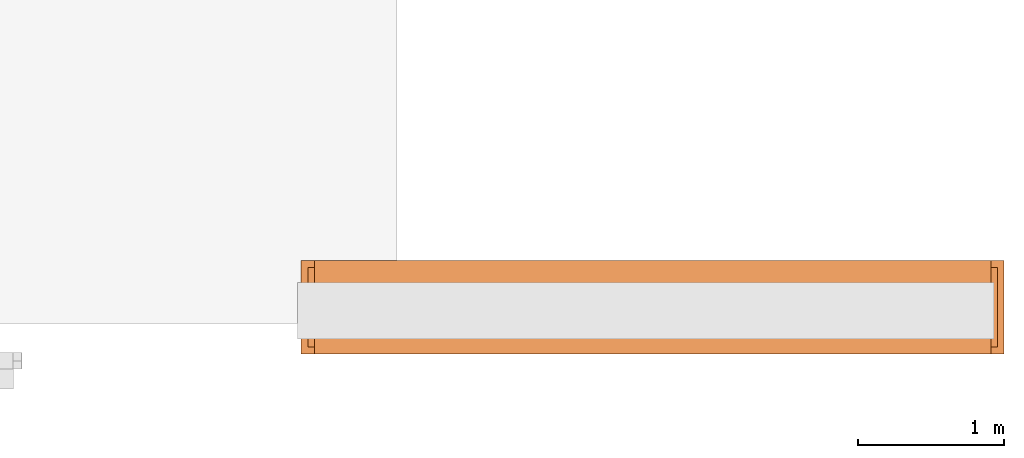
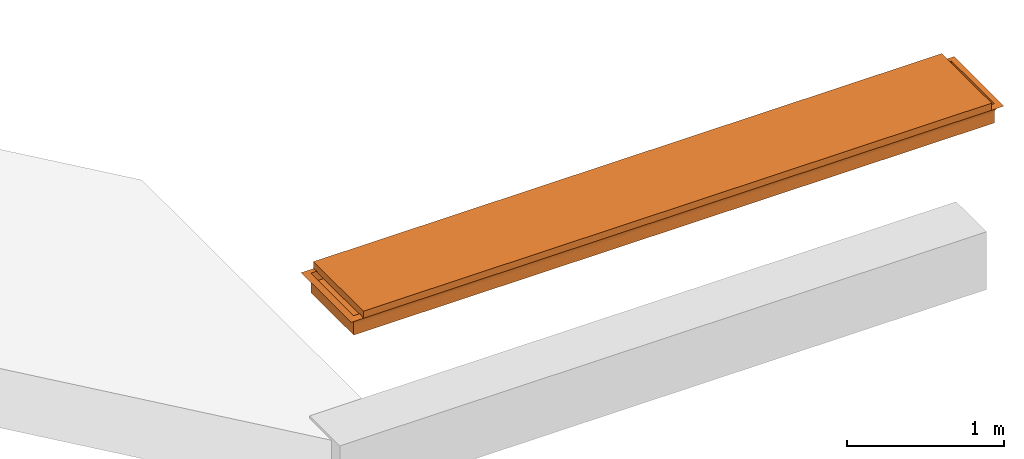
# One storey, part 4 of 4: 1 proxy.
"""IFC2X3 building model written with IfcOpenShell, lengths in metres."""

from ifc_helpers import new_model, entity, si_unit, converted_unit, derived_unit, direction, frame, origin, place, context, subcontext, project, spatial, faceted_brep, source, transform, mapped, material, type_object, type_shapes, element, save


model = new_model("IFC2X3")

# Units and contexts
model_context = context("Model", 3, precision=1e-05, world=origin(), true_north=direction((6.12303176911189e-17, 1.0)))
body_context = subcontext(model_context, "Body", "Model", "MODEL_VIEW")
ifc_project = project(units=[si_unit("LENGTHUNIT", "METRE"), si_unit("AREAUNIT", "SQUARE_METRE"), si_unit("VOLUMEUNIT", "CUBIC_METRE"), converted_unit("PLANEANGLEUNIT", "DEGREE", entity("IfcRatioMeasure", 0.0174532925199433), si_unit("PLANEANGLEUNIT", "RADIAN"), dimensions=[0, 0, 0, 0, 0, 0, 0]), si_unit("MASSUNIT", "GRAM", prefix="KILO"), derived_unit("MASSDENSITYUNIT", [(si_unit("MASSUNIT", "GRAM", prefix="KILO"), 1), (si_unit("LENGTHUNIT", "METRE"), -3)]), si_unit("TIMEUNIT", "SECOND"), si_unit("FREQUENCYUNIT", "HERTZ"), si_unit("THERMODYNAMICTEMPERATUREUNIT", "DEGREE_CELSIUS"), derived_unit("THERMALTRANSMITTANCEUNIT", [(si_unit("MASSUNIT", "GRAM", prefix="KILO"), 1), (si_unit("THERMODYNAMICTEMPERATUREUNIT", "KELVIN"), -1), (si_unit("TIMEUNIT", "SECOND"), -3)]), derived_unit("VOLUMETRICFLOWRATEUNIT", [(si_unit("LENGTHUNIT", "METRE"), 3), (si_unit("TIMEUNIT", "SECOND"), -1)]), si_unit("ELECTRICCURRENTUNIT", "AMPERE"), si_unit("ELECTRICVOLTAGEUNIT", "VOLT"), si_unit("POWERUNIT", "WATT"), si_unit("FORCEUNIT", "NEWTON", prefix="KILO"), si_unit("ILLUMINANCEUNIT", "LUX"), si_unit("LUMINOUSFLUXUNIT", "LUMEN"), si_unit("LUMINOUSINTENSITYUNIT", "CANDELA"), derived_unit("USERDEFINED", [(si_unit("MASSUNIT", "GRAM", prefix="KILO"), -1), (si_unit("LENGTHUNIT", "METRE"), -2), (si_unit("TIMEUNIT", "SECOND"), 3), (si_unit("LUMINOUSFLUXUNIT", "LUMEN"), 1)]), derived_unit("LINEARVELOCITYUNIT", [(si_unit("LENGTHUNIT", "METRE"), 1), (si_unit("TIMEUNIT", "SECOND"), -1)]), si_unit("PRESSUREUNIT", "PASCAL"), derived_unit("USERDEFINED", [(si_unit("LENGTHUNIT", "METRE"), -2), (si_unit("MASSUNIT", "GRAM", prefix="KILO"), 1), (si_unit("TIMEUNIT", "SECOND"), -2)])], contexts=[model_context])

# Site, building, storey
site_placement = place(None, origin())
site = spatial("IfcSite", under=ifc_project, at=site_placement, Name="Default", CompositionType="ELEMENT")
building_placement = place(site_placement, origin())
building = spatial("IfcBuilding", under=site, at=building_placement, CompositionType="ELEMENT")
storey_placement = place(building_placement, frame((0.0, 0.0, 23.3294157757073)))
storey = spatial("IfcBuildingStorey", under=building, at=storey_placement, Name="Livello 3", CompositionType="ELEMENT", Elevation=23.3294157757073)

# Proxy
ifc_material = material(Name="Piperno")
building_element_proxy_type = type_object("IfcBuildingElementProxyType", Name="Cimasa_balaustra terrazzo_2", PredefinedType="NOTDEFINED", material=ifc_material)
shared_shape = source(origin(), body_context, "Body", "Brep", [
    faceted_brep([(4.81252100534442, 0.638873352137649, 0.143041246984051), (4.80097214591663, 0.314926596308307, 0.137592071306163), (4.79713279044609, 0.623485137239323, 0.135148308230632), (4.79713279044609, 0.0169834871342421, 0.135148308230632), (4.81252100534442, 0.00159527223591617, 0.143041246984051), (4.76874770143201, 0.595100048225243, 0.0930289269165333), (4.77453273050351, 0.600885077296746, 0.109327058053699), (4.77453273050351, 0.0395835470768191, 0.109327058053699), (4.76874770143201, 0.0453685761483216, 0.0930289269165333), (4.76720796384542, 0.593560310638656, 0.0758032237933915), (4.76720796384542, 0.0469083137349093, 0.0758032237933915), (4.78419782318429, 0.610550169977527, 0.123668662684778), (4.79057391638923, 0.320234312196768, 0.130055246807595), (4.78419782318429, 0.0299184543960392, 0.123668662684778), (4.81252100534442, 0.349188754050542, 0.143041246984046), (4.76720796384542, 0.0469083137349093, 0.151031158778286), (4.76720796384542, 0.593560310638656, 0.151031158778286), (1.06690506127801, 0.605794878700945, 0.117576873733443), (1.45755995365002, 0.611336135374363, 0.124551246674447), (1.40023166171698, 0.602380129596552, 0.112129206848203), (4.36561989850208, 0.605476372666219, 0.117113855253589), (4.43282723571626, 0.627112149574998, 0.137466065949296), (4.18540992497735, 0.597585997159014, 0.101660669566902), (4.0593198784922, 0.608747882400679, 0.121522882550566), (1.89405170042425, 0.614249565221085, 0.127575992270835), (2.38717977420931, 0.618720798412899, 0.131577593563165), (2.32339941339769, 0.604942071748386, 0.116318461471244), (4.2331503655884, 0.638873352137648, 0.143041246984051), (0.580965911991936, 0.638873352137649, 0.143041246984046), (0.381289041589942, 0.627112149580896, 0.137466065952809), (0.00159527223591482, 0.638873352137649, 0.143041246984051), (0.0299184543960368, 0.610550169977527, 0.123668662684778), (0.608999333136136, 0.617190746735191, 0.130286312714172), (0.448496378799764, 0.605476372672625, 0.117113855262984), (0.0395835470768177, 0.600885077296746, 0.109327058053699), (2.84623422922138, 0.596809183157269, 0.0993794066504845), (3.0291004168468, 0.593560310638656, 0.0758032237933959), (2.51234131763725, 0.594754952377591, 0.0913494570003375), (0.0453685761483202, 0.595100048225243, 0.0930289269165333), (0.628706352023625, 0.597585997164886, 0.101660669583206), (0.717747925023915, 0.627635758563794, 0.137774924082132), (1.16033655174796, 0.638873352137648, 0.143041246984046), (3.3797202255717, 0.619450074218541, 0.132166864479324), (2.79991848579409, 0.624807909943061, 0.136030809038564), (3.03040957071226, 0.638873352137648, 0.143041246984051), (0.418683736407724, 0.59433781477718, 0.0889560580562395), (0.626277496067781, 0.593560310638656, 0.0758032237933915), (0.0469083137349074, 0.593560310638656, 0.0758032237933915), (0.760615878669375, 0.602837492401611, 0.112928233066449), (4.03650068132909, 0.594329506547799, 0.0889027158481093), (4.39543254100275, 0.594337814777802, 0.0889560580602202), (4.18783878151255, 0.593560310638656, 0.0758032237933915), (4.20511694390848, 0.617190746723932, 0.130286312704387), (3.81911834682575, 0.615916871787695, 0.129151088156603), (3.94346721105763, 0.627874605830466, 0.137913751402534), (1.01935309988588, 0.598347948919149, 0.103676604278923), (3.74721121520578, 0.605794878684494, 0.117576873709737), (3.6402198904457, 0.596342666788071, 0.0978669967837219), (1.12682709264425, 0.620319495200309, 0.132848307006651), (0.0169834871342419, 0.623485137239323, 0.135148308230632), (0.915962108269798, 0.59432631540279, 0.0888821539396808), (1.24438982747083, 0.595192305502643, 0.0934449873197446), (1.55284006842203, 0.596917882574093, 0.09971497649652), (1.20564667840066, 0.593560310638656, 0.0758032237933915), (3.65377972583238, 0.638873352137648, 0.143041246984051), (1.67217838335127, 0.594136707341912, 0.0875767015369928), (1.51666579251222, 0.593560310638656, 0.0758032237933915), (2.81622401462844, 0.602591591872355, 0.112501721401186), (2.51833671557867, 0.599053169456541, 0.105389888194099), (2.13871006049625, 0.595823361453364, 0.0960175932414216), (1.55658895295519, 0.6248223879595, 0.136040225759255), (1.76533187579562, 0.603530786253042, 0.114094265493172), (3.34208840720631, 0.638873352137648, 0.143041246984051), (2.40705189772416, 0.638873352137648, 0.143041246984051), (3.25989419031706, 0.601849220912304, 0.111169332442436), (2.82865096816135, 0.610995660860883, 0.1241726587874), (3.41492397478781, 0.609164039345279, 0.122034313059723), (2.13871212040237, 0.593560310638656, 0.0758032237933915), (1.82768895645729, 0.593560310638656, 0.0758032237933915), (3.60846959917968, 0.593560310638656, 0.0758032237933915), (3.24003730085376, 0.595850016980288, 0.0961175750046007), (2.44973123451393, 0.593560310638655, 0.0758032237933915), (1.93361179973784, 0.62622945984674, 0.136931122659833), (1.78369422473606, 0.638873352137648, 0.143041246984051), (1.47201538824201, 0.638873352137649, 0.143041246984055), (2.09537306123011, 0.638873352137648, 0.143041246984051), (2.71873073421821, 0.638873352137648, 0.143041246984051), (0.0469083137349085, 0.593560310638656, 0.151031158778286), (0.00159527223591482, 0.00159527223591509, 0.143041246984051), (0.0131441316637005, 0.325542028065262, 0.137592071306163), (0.0169834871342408, 0.0169834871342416, 0.135148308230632), (0.0453685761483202, 0.045368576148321, 0.0930289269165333), (0.0395835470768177, 0.0395835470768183, 0.109327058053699), (0.0469083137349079, 0.0469083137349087, 0.0758032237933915), (0.0299184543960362, 0.029918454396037, 0.123668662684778), (0.0235423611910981, 0.320234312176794, 0.130055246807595), (0.00159527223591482, 0.291279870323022, 0.143041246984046), (0.0469083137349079, 0.0469083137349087, 0.151031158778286), (3.7472112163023, 0.0346737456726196, 0.117576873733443), (3.35655632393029, 0.0291324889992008, 0.124551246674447), (3.41388461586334, 0.0380884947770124, 0.112129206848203), (0.448496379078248, 0.0349922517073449, 0.117113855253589), (0.381289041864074, 0.0133564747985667, 0.137466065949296), (0.628706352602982, 0.04288262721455, 0.101660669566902), (0.754796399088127, 0.0317207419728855, 0.121522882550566), (2.92006457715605, 0.02621905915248, 0.127575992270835), (2.42693650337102, 0.0217478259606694, 0.131577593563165), (2.4907168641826, 0.03552655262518, 0.116318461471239), (0.58096140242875, 0.00159527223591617, 0.143041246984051), (4.23315487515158, 0.00159527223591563, 0.143041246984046), (4.43282723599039, 0.0133564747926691, 0.137466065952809), (4.20511694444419, 0.0232778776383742, 0.130286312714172), (4.36561989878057, 0.0349922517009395, 0.117113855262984), (1.96788204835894, 0.0436594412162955, 0.0993794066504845), (1.78501586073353, 0.0469083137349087, 0.0758032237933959), (2.30177495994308, 0.0457136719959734, 0.0913494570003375), (4.1854099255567, 0.0428826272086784, 0.101660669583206), (4.09636835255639, 0.0128328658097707, 0.137774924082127), (3.65378874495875, 0.0015952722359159, 0.143041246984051), (1.43439605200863, 0.0210185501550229, 0.132166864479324), (2.01419779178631, 0.0156607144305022, 0.136030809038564), (1.78369283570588, 0.0015952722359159, 0.143041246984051), (4.39543254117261, 0.0461308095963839, 0.0889560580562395), (4.18783878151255, 0.0469083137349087, 0.0758032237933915), (0.626277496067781, 0.0469083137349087, 0.0758032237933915), (0.418683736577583, 0.0461308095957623, 0.0889560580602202), (4.05350039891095, 0.0376311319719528, 0.112928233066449), (0.777615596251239, 0.0461391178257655, 0.0889027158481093), (0.608999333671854, 0.023277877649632, 0.130286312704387), (0.994997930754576, 0.0245517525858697, 0.129151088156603), (0.870649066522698, 0.0125940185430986, 0.137913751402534), (3.79476317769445, 0.0421206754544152, 0.103676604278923), (1.06690506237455, 0.0346737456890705, 0.117576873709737), (1.17389638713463, 0.0441259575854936, 0.0978669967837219), (3.68728918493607, 0.0201491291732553, 0.132848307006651), (3.89815416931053, 0.0461423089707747, 0.0888821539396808), (3.56972645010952, 0.0452763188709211, 0.0934449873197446), (3.26127620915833, 0.0435507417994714, 0.09971497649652), (3.60846959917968, 0.0469083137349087, 0.0758032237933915), (1.16032753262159, 0.0015952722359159, 0.143041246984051), (3.14193789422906, 0.0463319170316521, 0.0875767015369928), (3.29745048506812, 0.0469083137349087, 0.0758032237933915), (1.99789226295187, 0.0378770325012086, 0.112501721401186), (2.29577956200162, 0.0414154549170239, 0.105389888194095), (2.67540621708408, 0.0446452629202, 0.0960175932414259), (3.25752732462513, 0.0156462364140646, 0.136040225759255), (3.04878440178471, 0.036937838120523, 0.114094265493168), (1.4720039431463, 0.0015952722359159, 0.143041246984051), (2.40705813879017, 0.0015952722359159, 0.143041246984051), (1.55422208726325, 0.038619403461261, 0.111169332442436), (1.98546530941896, 0.029472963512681, 0.1241726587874), (1.39919230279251, 0.031304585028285, 0.122034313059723), (2.67540415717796, 0.0469083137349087, 0.0758032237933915), (2.98642732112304, 0.0469083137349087, 0.0758032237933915), (1.20564667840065, 0.0469083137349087, 0.0758032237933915), (1.57407897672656, 0.0446186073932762, 0.0961175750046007), (2.3643850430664, 0.0469083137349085, 0.0758032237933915), (2.88050447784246, 0.0142391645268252, 0.136931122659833), (3.03042344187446, 0.0015952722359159, 0.143041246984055), (3.34211233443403, 0.0015952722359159, 0.143041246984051), (2.71873454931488, 0.0015952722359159, 0.143041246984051), (2.09538172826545, 0.0015952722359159, 0.143041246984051)], [[[0, 1, 2]], [[3, 1, 4]], [[5, 6, 7, 8]], [[9, 5, 8, 10]], [[11, 12, 13]], [[3, 12, 1]], [[6, 11, 13, 7]], [[1, 12, 2]], [[13, 12, 3]], [[12, 11, 2]], [[4, 1, 0, 14]], [[15, 4, 14, 0, 16]], [[10, 15, 16, 9]], [[17, 18, 19]], [[6, 20, 11]], [[21, 2, 11]], [[20, 22, 23]], [[24, 25, 26]], [[21, 27, 0]], [[28, 29, 30]], [[31, 29, 32]], [[31, 33, 34]], [[35, 36, 37]], [[38, 34, 39]], [[40, 28, 41]], [[5, 22, 6]], [[33, 31, 32]], [[40, 29, 28]], [[42, 43, 44]], [[45, 46, 47]], [[32, 48, 33]], [[49, 50, 51]], [[11, 52, 21]], [[52, 11, 20]], [[53, 54, 52]], [[55, 48, 17]], [[56, 22, 57]], [[22, 5, 50]], [[17, 32, 58]], [[29, 31, 59]], [[39, 45, 38]], [[55, 60, 39]], [[52, 20, 23]], [[20, 6, 22]], [[33, 39, 34]], [[9, 50, 5]], [[39, 33, 48]], [[61, 19, 62]], [[46, 60, 63]], [[27, 54, 64]], [[30, 29, 59]], [[39, 60, 45]], [[65, 66, 61]], [[67, 68, 26]], [[65, 62, 69]], [[70, 18, 58]], [[24, 71, 18]], [[56, 53, 23]], [[44, 72, 64, 42]], [[52, 54, 21]], [[25, 73, 43]], [[74, 75, 76]], [[54, 42, 64]], [[53, 42, 54]], [[42, 53, 76]], [[60, 55, 61]], [[19, 61, 55]], [[37, 77, 69]], [[77, 78, 69]], [[71, 24, 26]], [[57, 79, 80]], [[79, 49, 51]], [[56, 57, 74]], [[57, 80, 74]], [[56, 74, 76]], [[75, 74, 67]], [[61, 63, 60]], [[66, 63, 61]], [[78, 66, 65]], [[81, 77, 37, 36]], [[62, 65, 61]], [[35, 74, 80]], [[58, 18, 17]], [[82, 70, 83]], [[62, 19, 71]], [[58, 41, 70]], [[70, 82, 24]], [[18, 70, 24]], [[41, 84, 83, 70]], [[71, 69, 62]], [[25, 75, 26]], [[26, 69, 71]], [[68, 37, 69]], [[75, 25, 43]], [[82, 85, 25]], [[75, 43, 42]], [[73, 86, 44, 43]], [[82, 25, 24]], [[71, 19, 18]], [[73, 25, 85]], [[82, 83, 85]], [[17, 19, 55]], [[52, 23, 53]], [[56, 23, 22]], [[22, 50, 49]], [[51, 50, 9]], [[49, 57, 22]], [[57, 49, 79]], [[39, 48, 55]], [[17, 48, 32]], [[38, 45, 47]], [[46, 45, 60]], [[2, 21, 0]], [[27, 21, 54]], [[32, 29, 40]], [[40, 58, 32]], [[58, 40, 41]], [[65, 69, 78]], [[35, 37, 68]], [[35, 68, 67]], [[26, 68, 69]], [[35, 67, 74]], [[75, 67, 26]], [[56, 76, 53]], [[42, 76, 75]], [[80, 36, 35]], [[36, 80, 79]], [[16, 0, 27, 64, 72, 44, 86, 73, 85, 83, 84, 41, 28, 30, 87]], [[16, 87, 47, 46, 63, 66, 78, 77, 81, 36, 79, 51, 9]], [[88, 89, 90]], [[59, 89, 30]], [[91, 92, 34, 38]], [[93, 91, 38, 47]], [[94, 95, 31]], [[59, 95, 89]], [[92, 94, 31, 34]], [[89, 95, 90]], [[31, 95, 59]], [[95, 94, 90]], [[30, 89, 88, 96]], [[87, 30, 96, 88, 97]], [[47, 87, 97, 93]], [[98, 99, 100]], [[92, 101, 94]], [[102, 90, 94]], [[101, 103, 104]], [[105, 106, 107]], [[102, 108, 88]], [[109, 110, 4]], [[13, 110, 111]], [[13, 112, 7]], [[113, 114, 115]], [[8, 7, 116]], [[117, 109, 118]], [[91, 103, 92]], [[112, 13, 111]], [[117, 110, 109]], [[119, 120, 121]], [[122, 123, 10]], [[124, 125, 93]], [[111, 126, 112]], [[127, 125, 124]], [[94, 128, 102]], [[128, 94, 101]], [[129, 130, 128]], [[131, 126, 98]], [[132, 103, 133]], [[103, 91, 125]], [[98, 111, 134]], [[110, 13, 3]], [[116, 122, 8]], [[131, 135, 116]], [[128, 101, 104]], [[101, 92, 103]], [[112, 116, 7]], [[93, 125, 91]], [[116, 112, 126]], [[136, 100, 137]], [[123, 135, 138]], [[108, 130, 139]], [[4, 110, 3]], [[116, 135, 122]], [[140, 141, 136]], [[142, 143, 107]], [[140, 137, 144]], [[145, 99, 134]], [[105, 146, 99]], [[132, 129, 104]], [[121, 147, 139, 119]], [[128, 130, 102]], [[106, 148, 120]], [[149, 150, 151]], [[130, 119, 139]], [[129, 119, 130]], [[119, 129, 151]], [[135, 131, 136]], [[100, 136, 131]], [[115, 152, 144]], [[152, 153, 144]], [[146, 105, 107]], [[133, 154, 155]], [[154, 127, 124]], [[132, 133, 149]], [[133, 155, 149]], [[132, 149, 151]], [[150, 149, 142]], [[136, 138, 135]], [[141, 138, 136]], [[153, 141, 140]], [[156, 152, 115, 114]], [[137, 140, 136]], [[113, 149, 155]], [[134, 99, 98]], [[157, 145, 158]], [[137, 100, 146]], [[134, 118, 145]], [[145, 157, 105]], [[99, 145, 105]], [[118, 159, 158, 145]], [[146, 144, 137]], [[106, 150, 107]], [[107, 144, 146]], [[143, 115, 144]], [[150, 106, 120]], [[157, 160, 106]], [[150, 120, 119]], [[148, 161, 121, 120]], [[157, 106, 105]], [[146, 100, 99]], [[148, 106, 160]], [[157, 158, 160]], [[98, 100, 131]], [[128, 104, 129]], [[132, 104, 103]], [[103, 125, 127]], [[127, 133, 103]], [[133, 127, 154]], [[116, 126, 131]], [[98, 126, 111]], [[8, 122, 10]], [[123, 122, 135]], [[90, 102, 88]], [[108, 102, 130]], [[111, 110, 117]], [[117, 134, 111]], [[134, 117, 118]], [[140, 144, 153]], [[113, 115, 143]], [[113, 143, 142]], [[107, 143, 144]], [[113, 142, 149]], [[150, 142, 107]], [[132, 151, 129]], [[119, 151, 150]], [[155, 114, 113]], [[114, 155, 154]], [[97, 88, 108, 139, 147, 121, 161, 148, 160, 158, 159, 118, 109, 4, 15]], [[93, 97, 15, 10, 123, 138, 141, 153, 152, 156, 114, 154, 124]]]),
    faceted_brep([(0.0469083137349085, 0.0469083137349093, 0.0), (0.0469083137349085, 0.0469083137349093, 0.0758032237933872), (0.0469083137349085, 0.593560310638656, 0.0758032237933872), (0.0469083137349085, 0.593560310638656, 0.0), (4.76720796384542, 0.0469083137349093, 0.0), (4.76720796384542, 0.593560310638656, 0.0), (4.76720796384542, 0.593560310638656, 0.0758032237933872), (4.76720796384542, 0.0469083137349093, 0.0758032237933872)], [[[0, 1, 2, 3]], [[4, 5, 6, 7]], [[1, 0, 4, 7]], [[2, 1, 7, 6]], [[3, 2, 6, 5]], [[0, 3, 5, 4]]]),
    faceted_brep([(4.72189492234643, 0.638873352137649, 0.197771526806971), (4.72189492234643, 0.00159527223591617, 0.197771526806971), (4.72189492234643, 0.00159527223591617, 0.143041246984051), (4.72189492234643, 0.638873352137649, 0.143041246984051), (0.0922213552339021, 0.638873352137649, 0.197771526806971), (0.0922213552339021, 0.638873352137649, 0.143041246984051), (0.0922213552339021, 0.00159527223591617, 0.143041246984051), (0.0922213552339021, 0.00159527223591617, 0.197771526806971)], [[[0, 1, 2, 3]], [[4, 5, 6, 7]], [[1, 0, 4, 7]], [[2, 1, 7, 6]], [[3, 2, 6, 5]], [[0, 3, 5, 4]]]),
])
type_shapes(building_element_proxy_type, [shared_shape])
proxy_placement = place(storey_placement, frame((4.71561495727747, 1.25399804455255, 1.28366956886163)))
element("IfcBuildingElementProxy", 1, at=proxy_placement, inside=storey, type_object=building_element_proxy_type, material=ifc_material, Name="Cimasa_balaustra terrazzo_2:Cimasa_balaustra terrazzo_2", ObjectType="Cimasa_balaustra terrazzo_2", context=body_context, shape_type="MappedRepresentation", body=[
    mapped(shared_shape, transform((0.0, 0.0, 0.0), scale=1.0)),
])

save(model, "model.ifc")
